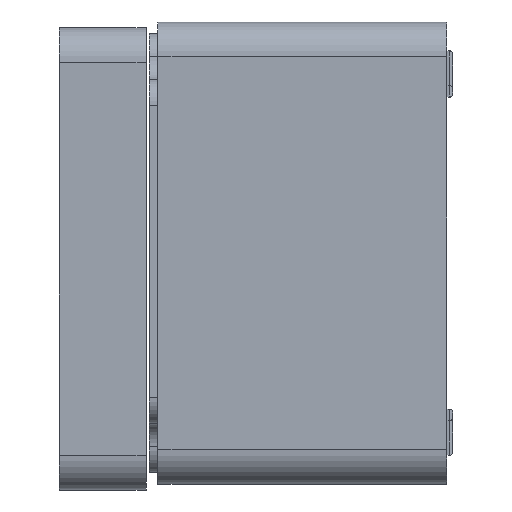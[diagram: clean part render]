
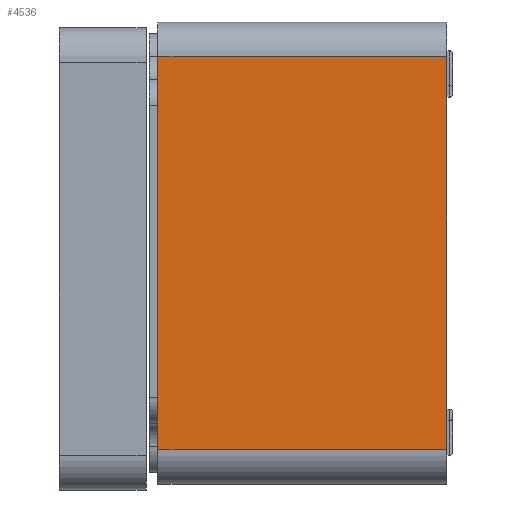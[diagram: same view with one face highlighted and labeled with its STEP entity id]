
A CAD part, left-side view. The second image highlights one B-rep face of the part: STEP entity #4536.
In plain terms, the highlighted planar face has unit normal (-1, 0, 0).
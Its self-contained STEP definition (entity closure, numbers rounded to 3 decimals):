
#970 = VECTOR ( 'NONE', #3880, 1000. ) ;
#1073 = DIRECTION ( 'NONE',  ( 1., 0., 0. ) ) ;
#1672 = VERTEX_POINT ( 'NONE', #15376 ) ;
#1999 = CARTESIAN_POINT ( 'NONE',  ( -40., 50., -34. ) ) ;
#2733 = EDGE_CURVE ( 'NONE', #1672, #10861, #11062, .T. ) ;
#2885 = DIRECTION ( 'NONE',  ( 0., 0., 1. ) ) ;
#3167 = ORIENTED_EDGE ( 'NONE', *, *, #15381, .T. ) ;
#3300 = FACE_OUTER_BOUND ( 'NONE', #21009, .T. ) ;
#3880 = DIRECTION ( 'NONE',  ( 0., 1., 0. ) ) ;
#4044 = VERTEX_POINT ( 'NONE', #26006 ) ;
#4536 = ADVANCED_FACE ( 'NONE', ( #3300 ), #10954, .F. ) ;
#4723 = VERTEX_POINT ( 'NONE', #1999 ) ;
#5488 = DIRECTION ( 'NONE',  ( 0., 0., 1. ) ) ;
#9105 = DIRECTION ( 'NONE',  ( 0., 0., -1. ) ) ;
#9191 = EDGE_CURVE ( 'NONE', #4723, #4044, #15502, .T. ) ;
#9210 = VECTOR ( 'NONE', #2885, 1000. ) ;
#9661 = LINE ( 'NONE', #9933, #970 ) ;
#9933 = CARTESIAN_POINT ( 'NONE',  ( -40., 50., 34. ) ) ;
#10861 = VERTEX_POINT ( 'NONE', #12305 ) ;
#10954 = PLANE ( 'NONE',  #15595 ) ;
#11062 = LINE ( 'NONE', #14766, #9210 ) ;
#12305 = CARTESIAN_POINT ( 'NONE',  ( -40., 0., 34. ) ) ;
#12691 = CARTESIAN_POINT ( 'NONE',  ( -40., 50., -34. ) ) ;
#13288 = ORIENTED_EDGE ( 'NONE', *, *, #9191, .F. ) ;
#13915 = VECTOR ( 'NONE', #18396, 1000. ) ;
#14766 = CARTESIAN_POINT ( 'NONE',  ( -40., 0., -40. ) ) ;
#15376 = CARTESIAN_POINT ( 'NONE',  ( -40., 0., -34. ) ) ;
#15381 = EDGE_CURVE ( 'NONE', #10861, #4044, #9661, .T. ) ;
#15502 = LINE ( 'NONE', #21634, #19934 ) ;
#15595 = AXIS2_PLACEMENT_3D ( 'NONE', #19029, #1073, #9105 ) ;
#18396 = DIRECTION ( 'NONE',  ( 0., -1., 0. ) ) ;
#19029 = CARTESIAN_POINT ( 'NONE',  ( -40., 50., -40. ) ) ;
#19934 = VECTOR ( 'NONE', #5488, 1000. ) ;
#21009 = EDGE_LOOP ( 'NONE', ( #22299, #3167, #13288, #21080 ) ) ;
#21080 = ORIENTED_EDGE ( 'NONE', *, *, #25034, .T. ) ;
#21634 = CARTESIAN_POINT ( 'NONE',  ( -40., 50., -40. ) ) ;
#22299 = ORIENTED_EDGE ( 'NONE', *, *, #2733, .T. ) ;
#22521 = LINE ( 'NONE', #12691, #13915 ) ;
#25034 = EDGE_CURVE ( 'NONE', #4723, #1672, #22521, .T. ) ;
#26006 = CARTESIAN_POINT ( 'NONE',  ( -40., 50., 34. ) ) ;
